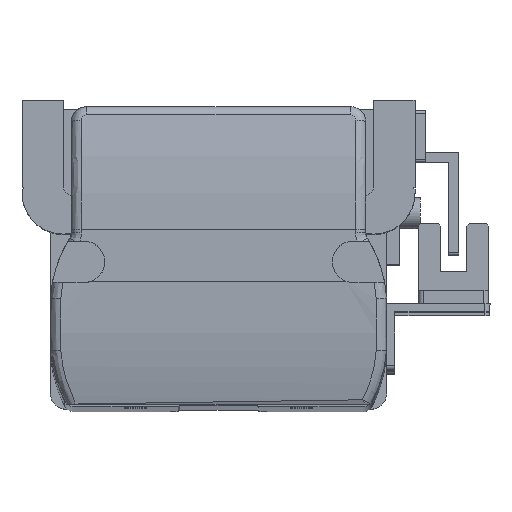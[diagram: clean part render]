
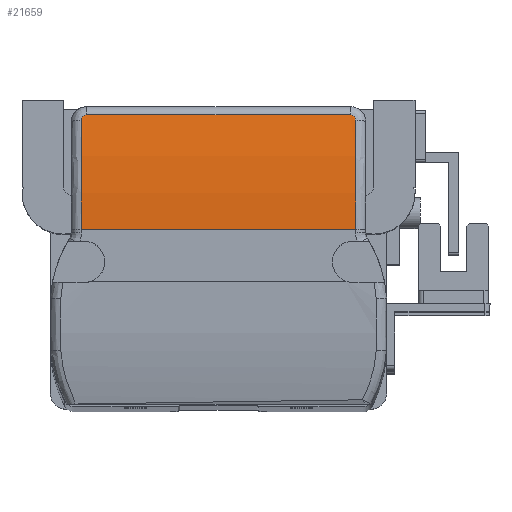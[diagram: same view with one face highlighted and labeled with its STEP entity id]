
A CAD part, top view. The second image highlights one B-rep face of the part: STEP entity #21659.
In plain terms, the highlighted cylindrical face has radius 100 mm (diameter 200 mm), a partial arc.
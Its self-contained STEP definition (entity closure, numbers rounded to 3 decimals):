
#399 = EDGE_LOOP ( 'NONE', ( #2675, #17982, #9311, #7842, #27231, #31390 ) ) ;
#513 = CARTESIAN_POINT ( 'NONE',  ( 16.827, 43.991, 118.059 ) ) ;
#646 = DIRECTION ( 'NONE',  ( 0., 1., 0. ) ) ;
#1051 = CARTESIAN_POINT ( 'NONE',  ( -35.679, 44.874, 117.878 ) ) ;
#1364 = VERTEX_POINT ( 'NONE', #513 ) ;
#1685 = VERTEX_POINT ( 'NONE', #26858 ) ;
#1745 = B_SPLINE_CURVE_WITH_KNOTS ( 'NONE', 3,
 ( #7603, #10134, #20228, #5211, #22716, #7725, #25245, #10243, #27779, #12767 ),
 .UNSPECIFIED., .F., .F.,
 ( 4, 2, 2, 2, 4 ),
 ( 0., 0.25, 0.5, 0.75, 1. ),
 .UNSPECIFIED. ) ;
#1887 = CARTESIAN_POINT ( 'NONE',  ( -57.923, 22.848, 120. ) ) ;
#1894 = VERTEX_POINT ( 'NONE', #31639 ) ;
#2675 = ORIENTED_EDGE ( 'NONE', *, *, #24201, .F. ) ;
#3547 = CARTESIAN_POINT ( 'NONE',  ( -35.439, 44.984, 117.855 ) ) ;
#3598 = CARTESIAN_POINT ( 'NONE',  ( -36.173, 43.991, 118.059 ) ) ;
#5211 = CARTESIAN_POINT ( 'NONE',  ( 16.703, 44.5, 117.956 ) ) ;
#5980 = CARTESIAN_POINT ( 'NONE',  ( -36.167, 44.124, 118.032 ) ) ;
#6088 = CARTESIAN_POINT ( 'NONE',  ( -35.173, 45.012, 117.849 ) ) ;
#6142 = EDGE_CURVE ( 'NONE', #1685, #21403, #18601, .T. ) ;
#6439 = LINE ( 'NONE', #1887, #12308 ) ;
#6902 = DIRECTION ( 'NONE',  ( 1., 0., 0. ) ) ;
#7603 = CARTESIAN_POINT ( 'NONE',  ( 16.827, 43.991, 118.059 ) ) ;
#7725 = CARTESIAN_POINT ( 'NONE',  ( 16.447, 44.803, 117.893 ) ) ;
#7842 = ORIENTED_EDGE ( 'NONE', *, *, #32288, .F. ) ;
#8466 = CARTESIAN_POINT ( 'NONE',  ( -36.123, 44.317, 117.993 ) ) ;
#9311 = ORIENTED_EDGE ( 'NONE', *, *, #30153, .T. ) ;
#9741 = VERTEX_POINT ( 'NONE', #28808 ) ;
#10134 = CARTESIAN_POINT ( 'NONE',  ( 16.827, 44.125, 118.032 ) ) ;
#10243 = CARTESIAN_POINT ( 'NONE',  ( 16.092, 44.985, 117.855 ) ) ;
#10276 = CARTESIAN_POINT ( 'NONE',  ( -36.173, 24.33, 20.011 ) ) ;
#10919 = CARTESIAN_POINT ( 'NONE',  ( -36.173, 44.058, 118.046 ) ) ;
#11018 = CARTESIAN_POINT ( 'NONE',  ( -36.043, 44.498, 117.956 ) ) ;
#12243 = CARTESIAN_POINT ( 'NONE',  ( 16.827, 24.33, 20.011 ) ) ;
#12308 = VECTOR ( 'NONE', #6902, 1000. ) ;
#12565 = CIRCLE ( 'NONE', #26632, 100. ) ;
#12767 = CARTESIAN_POINT ( 'NONE',  ( 15.827, 45.012, 117.849 ) ) ;
#12802 = DIRECTION ( 'NONE',  ( 0., 0., -1. ) ) ;
#13545 = CARTESIAN_POINT ( 'NONE',  ( -35.93, 44.662, 117.922 ) ) ;
#14056 = AXIS2_PLACEMENT_3D ( 'NONE', #15623, #20564, #646 ) ;
#14232 = EDGE_CURVE ( 'NONE', #1364, #1894, #1745, .T. ) ;
#14757 = DIRECTION ( 'NONE',  ( 0., -1., 0. ) ) ;
#14776 = VECTOR ( 'NONE', #23333, 1000. ) ;
#14926 = CYLINDRICAL_SURFACE ( 'NONE', #14056, 100. ) ;
#15623 = CARTESIAN_POINT ( 'NONE',  ( -57.923, 24.33, 20.011 ) ) ;
#15948 = CARTESIAN_POINT ( 'NONE',  ( -36.173, 43.991, 118.059 ) ) ;
#16046 = CARTESIAN_POINT ( 'NONE',  ( -35.788, 44.799, 117.894 ) ) ;
#17982 = ORIENTED_EDGE ( 'NONE', *, *, #6142, .F. ) ;
#18321 = CARTESIAN_POINT ( 'NONE',  ( -9.673, 45.012, 117.849 ) ) ;
#18577 = CARTESIAN_POINT ( 'NONE',  ( -35.621, 44.906, 117.871 ) ) ;
#18601 = CIRCLE ( 'NONE', #28826, 100. ) ;
#19437 = EDGE_CURVE ( 'NONE', #9741, #1894, #22219, .T. ) ;
#20228 = CARTESIAN_POINT ( 'NONE',  ( 16.802, 44.252, 118.006 ) ) ;
#20564 = DIRECTION ( 'NONE',  ( 1., 0., 0. ) ) ;
#21083 = CARTESIAN_POINT ( 'NONE',  ( -35.307, 45.012, 117.849 ) ) ;
#21403 = VERTEX_POINT ( 'NONE', #3598 ) ;
#21659 = ADVANCED_FACE ( 'NONE', ( #28271 ), #14926, .T. ) ;
#22219 = LINE ( 'NONE', #18321, #14776 ) ;
#22716 = CARTESIAN_POINT ( 'NONE',  ( 16.634, 44.609, 117.933 ) ) ;
#23333 = DIRECTION ( 'NONE',  ( 1., 0., 0. ) ) ;
#23482 = CARTESIAN_POINT ( 'NONE',  ( -36.142, 44.253, 118.006 ) ) ;
#23736 = VERTEX_POINT ( 'NONE', #29216 ) ;
#24201 = EDGE_CURVE ( 'NONE', #21403, #9741, #25543, .T. ) ;
#25245 = CARTESIAN_POINT ( 'NONE',  ( 16.34, 44.878, 117.877 ) ) ;
#25543 = B_SPLINE_CURVE_WITH_KNOTS ( 'NONE', 3,
 ( #15948, #10919, #5980, #23482, #8466, #26005, #11018, #28546, #13545, #31034, #16046, #1051, #18577, #3547, #21083, #6088 ),
 .UNSPECIFIED., .F., .F.,
 ( 4, 2, 2, 2, 2, 2, 2, 4 ),
 ( 0., 0.125, 0.25, 0.375, 0.5, 0.625, 0.75, 1. ),
 .UNSPECIFIED. ) ;
#26005 = CARTESIAN_POINT ( 'NONE',  ( -36.074, 44.44, 117.968 ) ) ;
#26632 = AXIS2_PLACEMENT_3D ( 'NONE', #12243, #29757, #14757 ) ;
#26858 = CARTESIAN_POINT ( 'NONE',  ( -36.173, 22.848, 120. ) ) ;
#27231 = ORIENTED_EDGE ( 'NONE', *, *, #14232, .T. ) ;
#27779 = CARTESIAN_POINT ( 'NONE',  ( 15.962, 45.012, 117.849 ) ) ;
#27811 = DIRECTION ( 'NONE',  ( -1., 0., 0. ) ) ;
#28271 = FACE_OUTER_BOUND ( 'NONE', #399, .T. ) ;
#28546 = CARTESIAN_POINT ( 'NONE',  ( -35.972, 44.609, 117.933 ) ) ;
#28808 = CARTESIAN_POINT ( 'NONE',  ( -35.173, 45.012, 117.849 ) ) ;
#28826 = AXIS2_PLACEMENT_3D ( 'NONE', #10276, #27811, #12802 ) ;
#29216 = CARTESIAN_POINT ( 'NONE',  ( 16.827, 22.848, 120. ) ) ;
#29757 = DIRECTION ( 'NONE',  ( 1., 0., 0. ) ) ;
#30153 = EDGE_CURVE ( 'NONE', #1685, #23736, #6439, .T. ) ;
#31034 = CARTESIAN_POINT ( 'NONE',  ( -35.838, 44.756, 117.902 ) ) ;
#31390 = ORIENTED_EDGE ( 'NONE', *, *, #19437, .F. ) ;
#31639 = CARTESIAN_POINT ( 'NONE',  ( 15.827, 45.012, 117.849 ) ) ;
#32288 = EDGE_CURVE ( 'NONE', #1364, #23736, #12565, .T. ) ;
